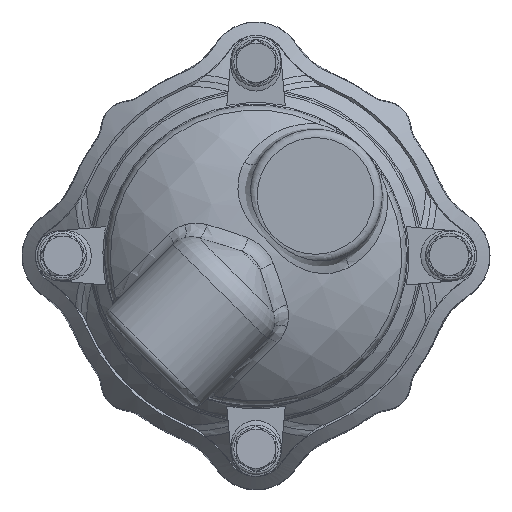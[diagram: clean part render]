
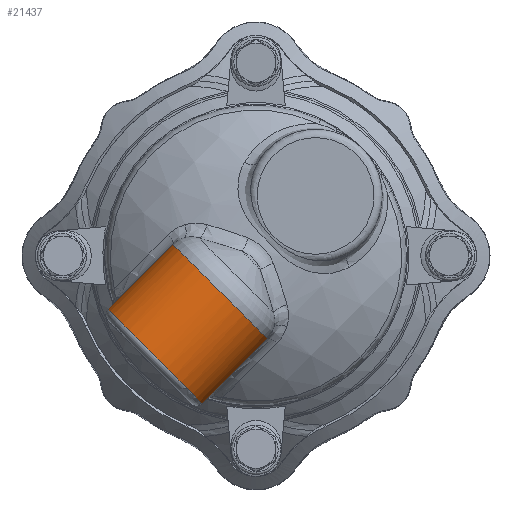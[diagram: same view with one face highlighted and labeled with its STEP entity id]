
A CAD part, top view. The second image highlights one B-rep face of the part: STEP entity #21437.
In plain terms, the highlighted cylindrical face has radius 40.5 mm (diameter 81 mm), a partial arc.
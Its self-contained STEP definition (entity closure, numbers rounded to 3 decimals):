
#1055 = LINE ( 'NONE', #16263, #1058 ) ;
#1058 = VECTOR ( 'NONE', #16261, 1000. ) ;
#1116 = LINE ( 'NONE', #6272, #1119 ) ;
#1119 = VECTOR ( 'NONE', #6299, 1000. ) ;
#1796 = CARTESIAN_POINT ( 'NONE',  ( 6.726, -50.549, 40.5 ) ) ;
#1824 = CARTESIAN_POINT ( 'NONE',  ( -50.549, 6.726, 40.5 ) ) ;
#1911 = CARTESIAN_POINT ( 'NONE',  ( -82.27, -24.994, 40.5 ) ) ;
#3618 = EDGE_CURVE ( 'NONE', #18747, #18908, #1055, .T. ) ;
#3673 = EDGE_CURVE ( 'NONE', #18908, #10634, #19299, .T. ) ;
#3782 = EDGE_CURVE ( 'NONE', #10559, #18750, #1116, .T. ) ;
#4060 = EDGE_LOOP ( 'NONE', ( #4358, #4357, #4356, #4361, #4360, #4359 ) ) ;
#4356 = ORIENTED_EDGE ( 'NONE', *, *, #15258, .T. ) ;
#4357 = ORIENTED_EDGE ( 'NONE', *, *, #3673, .T. ) ;
#4358 = ORIENTED_EDGE ( 'NONE', *, *, #3618, .T. ) ;
#4359 = ORIENTED_EDGE ( 'NONE', *, *, #15190, .T. ) ;
#4360 = ORIENTED_EDGE ( 'NONE', *, *, #3782, .T. ) ;
#4361 = ORIENTED_EDGE ( 'NONE', *, *, #9124, .T. ) ;
#4711 = CIRCLE ( 'NONE', #20800, 40.5 ) ;
#4842 = CIRCLE ( 'NONE', #20812, 40.5 ) ;
#6272 = CARTESIAN_POINT ( 'NONE',  ( -29.576, -86.852, 40.5 ) ) ;
#6299 = DIRECTION ( 'NONE',  ( 0.707, 0.707, 0. ) ) ;
#6605 = CARTESIAN_POINT ( 'NONE',  ( -34.537, -88.146, 26.242 ) ) ;
#6606 = CARTESIAN_POINT ( 'NONE',  ( -32.696, -87.567, 28.615 ) ) ;
#6611 = CARTESIAN_POINT ( 'NONE',  ( -30.981, -86.755, 30.977 ) ) ;
#6612 = CARTESIAN_POINT ( 'NONE',  ( -28.593, -85.269, 34.533 ) ) ;
#6613 = CARTESIAN_POINT ( 'NONE',  ( -27.828, -84.728, 35.721 ) ) ;
#6614 = CARTESIAN_POINT ( 'NONE',  ( -26.728, -83.854, 37.508 ) ) ;
#6615 = CARTESIAN_POINT ( 'NONE',  ( -26.37, -83.551, 38.105 ) ) ;
#6616 = CARTESIAN_POINT ( 'NONE',  ( -25.844, -83.082, 39.001 ) ) ;
#6617 = CARTESIAN_POINT ( 'NONE',  ( -25.585, -82.844, 39.45 ) ) ;
#6618 = CARTESIAN_POINT ( 'NONE',  ( -25.33, -82.6, 39.9 ) ) ;
#6619 = CARTESIAN_POINT ( 'NONE',  ( -25.161, -82.436, 40.2 ) ) ;
#6620 = CARTESIAN_POINT ( 'NONE',  ( -25.077, -82.352, 40.351 ) ) ;
#6621 = CARTESIAN_POINT ( 'NONE',  ( -24.994, -82.27, 40.5 ) ) ;
#7396 = CARTESIAN_POINT ( 'NONE',  ( -61.342, -61.342, 40.5 ) ) ;
#7397 = DIRECTION ( 'NONE',  ( 0.707, 0.707, 0. ) ) ;
#7398 = DIRECTION ( 'NONE',  ( -0.707, 0.707, 0. ) ) ;
#8320 = DIRECTION ( 'NONE',  ( -0.707, 0.707, 0. ) ) ;
#8321 = DIRECTION ( 'NONE',  ( 0.707, 0.707, 0. ) ) ;
#8339 = CARTESIAN_POINT ( 'NONE',  ( -1.033, -1.033, 40.5 ) ) ;
#9124 = EDGE_CURVE ( 'NONE', #10579, #10559, #19360, .T. ) ;
#9229 = CARTESIAN_POINT ( 'NONE',  ( -24.994, -82.27, 40.5 ) ) ;
#9249 = CARTESIAN_POINT ( 'NONE',  ( -34.537, -88.146, 26.242 ) ) ;
#9304 = CARTESIAN_POINT ( 'NONE',  ( -88.146, -34.537, 26.242 ) ) ;
#10419 = CARTESIAN_POINT ( 'NONE',  ( -21.912, -21.912, 40.5 ) ) ;
#10420 = DIRECTION ( 'NONE',  ( -0.707, -0.707, 0. ) ) ;
#10421 = DIRECTION ( 'NONE',  ( 0.707, -0.707, 0. ) ) ;
#10559 = VERTEX_POINT ( 'NONE', #9229 ) ;
#10579 = VERTEX_POINT ( 'NONE', #9249 ) ;
#10634 = VERTEX_POINT ( 'NONE', #9304 ) ;
#12808 = FACE_OUTER_BOUND ( 'NONE', #4060, .T. ) ;
#12809 = CYLINDRICAL_SURFACE ( 'NONE', #15538, 40.5 ) ;
#15190 = EDGE_CURVE ( 'NONE', #18750, #18747, #4711, .T. ) ;
#15258 = EDGE_CURVE ( 'NONE', #10634, #10579, #4842, .T. ) ;
#15538 = AXIS2_PLACEMENT_3D ( 'NONE', #8339, #8321, #8320 ) ;
#16261 = DIRECTION ( 'NONE',  ( -0.707, -0.707, 0. ) ) ;
#16263 = CARTESIAN_POINT ( 'NONE',  ( -44.017, 13.258, 40.5 ) ) ;
#16606 = CARTESIAN_POINT ( 'NONE',  ( -82.352, -25.077, 40.351 ) ) ;
#16625 = CARTESIAN_POINT ( 'NONE',  ( -82.27, -24.994, 40.5 ) ) ;
#16626 = CARTESIAN_POINT ( 'NONE',  ( -82.436, -25.161, 40.2 ) ) ;
#16627 = CARTESIAN_POINT ( 'NONE',  ( -82.6, -25.33, 39.9 ) ) ;
#16628 = CARTESIAN_POINT ( 'NONE',  ( -82.844, -25.585, 39.45 ) ) ;
#16629 = CARTESIAN_POINT ( 'NONE',  ( -83.082, -25.844, 39.001 ) ) ;
#16630 = CARTESIAN_POINT ( 'NONE',  ( -83.551, -26.37, 38.105 ) ) ;
#16631 = CARTESIAN_POINT ( 'NONE',  ( -83.854, -26.728, 37.508 ) ) ;
#16632 = CARTESIAN_POINT ( 'NONE',  ( -84.728, -27.828, 35.721 ) ) ;
#16633 = CARTESIAN_POINT ( 'NONE',  ( -85.269, -28.593, 34.533 ) ) ;
#16634 = CARTESIAN_POINT ( 'NONE',  ( -86.755, -30.981, 30.977 ) ) ;
#16635 = CARTESIAN_POINT ( 'NONE',  ( -87.567, -32.696, 28.615 ) ) ;
#16636 = CARTESIAN_POINT ( 'NONE',  ( -88.146, -34.537, 26.242 ) ) ;
#18747 = VERTEX_POINT ( 'NONE', #1824 ) ;
#18750 = VERTEX_POINT ( 'NONE', #1796 ) ;
#18908 = VERTEX_POINT ( 'NONE', #1911 ) ;
#19299 = B_SPLINE_CURVE_WITH_KNOTS ( 'NONE', 3,
 ( #16625, #16606, #16626, #16627, #16628, #16629, #16630, #16631, #16632, #16633, #16634, #16635, #16636 ),
 .UNSPECIFIED., .F., .F.,
 ( 4, 2, 1, 2, 2, 2, 4 ),
 ( 0., 0.001, 0.001, 0.002, 0.004, 0.009, 0.018 ),
 .UNSPECIFIED. ) ;
#19360 = B_SPLINE_CURVE_WITH_KNOTS ( 'NONE', 3,
 ( #6605, #6606, #6611, #6612, #6613, #6614, #6615, #6616, #6617, #6618, #6619, #6620, #6621 ),
 .UNSPECIFIED., .F., .F.,
 ( 4, 2, 2, 2, 1, 2, 4 ),
 ( 0., 0.009, 0.014, 0.016, 0.017, 0.018, 0.018 ),
 .UNSPECIFIED. ) ;
#20800 = AXIS2_PLACEMENT_3D ( 'NONE', #10419, #10420, #10421 ) ;
#20812 = AXIS2_PLACEMENT_3D ( 'NONE', #7396, #7397, #7398 ) ;
#21437 = ADVANCED_FACE ( 'NONE', ( #12808 ), #12809, .T. ) ;
